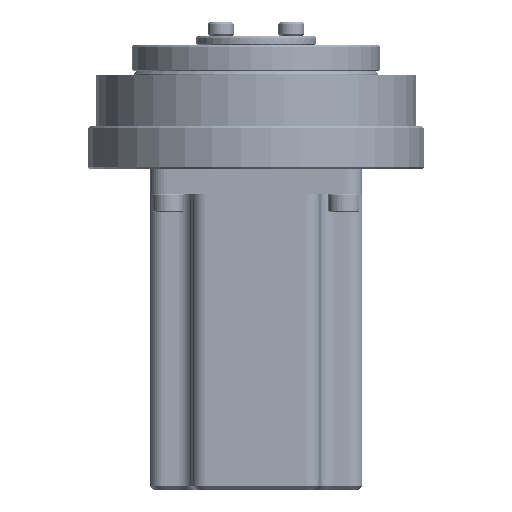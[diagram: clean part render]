
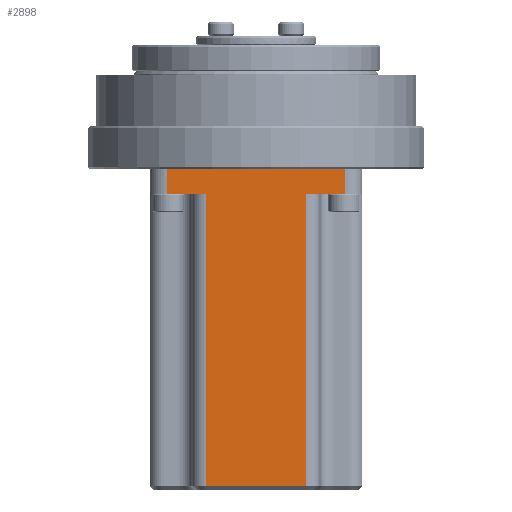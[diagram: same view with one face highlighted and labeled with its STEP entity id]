
A CAD part, left-side view. The second image highlights one B-rep face of the part: STEP entity #2898.
In plain terms, the highlighted planar face has unit normal (-1, 0, 0).
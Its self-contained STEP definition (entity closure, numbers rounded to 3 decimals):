
#1339=PLANE('',#15451);
#2898=ADVANCED_FACE('',(#4122),#1339,.F.);
#4122=FACE_OUTER_BOUND('',#4605,.T.);
#4605=EDGE_LOOP('',(#7621,#7622,#7623,#7624,#7625,#7626,#7627,#7628));
#7621=ORIENTED_EDGE('',*,*,#12496,.T.);
#7622=ORIENTED_EDGE('',*,*,#12497,.T.);
#7623=ORIENTED_EDGE('',*,*,#12498,.T.);
#7624=ORIENTED_EDGE('',*,*,#12435,.F.);
#7625=ORIENTED_EDGE('',*,*,#12499,.T.);
#7626=ORIENTED_EDGE('',*,*,#12500,.T.);
#7627=ORIENTED_EDGE('',*,*,#12501,.T.);
#7628=ORIENTED_EDGE('',*,*,#12502,.F.);
#11037=VERTEX_POINT('',#25009);
#11038=VERTEX_POINT('',#25011);
#11086=VERTEX_POINT('',#28418);
#11087=VERTEX_POINT('',#28419);
#11088=VERTEX_POINT('',#28421);
#11089=VERTEX_POINT('',#28424);
#11090=VERTEX_POINT('',#28426);
#11091=VERTEX_POINT('',#28428);
#12435=EDGE_CURVE('',#11037,#11038,#14195,.T.);
#12496=EDGE_CURVE('',#11086,#11087,#14218,.T.);
#12497=EDGE_CURVE('',#11087,#11088,#14219,.T.);
#12498=EDGE_CURVE('',#11088,#11038,#14220,.T.);
#12499=EDGE_CURVE('',#11037,#11089,#14221,.T.);
#12500=EDGE_CURVE('',#11089,#11090,#14222,.T.);
#12501=EDGE_CURVE('',#11090,#11091,#14223,.T.);
#12502=EDGE_CURVE('',#11086,#11091,#14224,.T.);
#14195=LINE('',#25010,#14779);
#14218=LINE('',#28417,#14802);
#14219=LINE('',#28420,#14803);
#14220=LINE('',#28422,#14804);
#14221=LINE('',#28423,#14805);
#14222=LINE('',#28425,#14806);
#14223=LINE('',#28427,#14807);
#14224=LINE('',#28429,#14808);
#14779=VECTOR('',#17139,1.);
#14802=VECTOR('',#17242,1.);
#14803=VECTOR('',#17243,1.);
#14804=VECTOR('',#17244,1.);
#14805=VECTOR('',#17245,1.);
#14806=VECTOR('',#17246,1.);
#14807=VECTOR('',#17247,1.);
#14808=VECTOR('',#17248,1.);
#15451=AXIS2_PLACEMENT_3D('',#28430,#17249,#17250);
#17139=DIRECTION('',(0.,1.,0.));
#17242=DIRECTION('',(0.,0.,-1.));
#17243=DIRECTION('',(0.,-1.,0.));
#17244=DIRECTION('',(0.,0.,1.));
#17245=DIRECTION('',(0.,0.,1.));
#17246=DIRECTION('',(0.,1.,0.));
#17247=DIRECTION('',(0.,0.,-1.));
#17248=DIRECTION('',(0.,1.,0.));
#17249=DIRECTION('',(1.,0.,0.));
#17250=DIRECTION('',(0.,1.,0.));
#25009=CARTESIAN_POINT('',(-30.,-25.,-7.));
#25010=CARTESIAN_POINT('',(-30.,-30.,-7.));
#25011=CARTESIAN_POINT('',(-30.,-14.,-7.));
#28417=CARTESIAN_POINT('',(-30.,14.,-7.));
#28418=CARTESIAN_POINT('',(-30.,14.,-7.));
#28419=CARTESIAN_POINT('',(-30.,14.,-89.5));
#28420=CARTESIAN_POINT('',(-30.,0.,-89.5));
#28421=CARTESIAN_POINT('',(-30.,-14.,-89.5));
#28422=CARTESIAN_POINT('',(-30.,-14.,-7.));
#28423=CARTESIAN_POINT('',(-30.,-25.,-7.));
#28424=CARTESIAN_POINT('',(-30.,-25.,0.));
#28425=CARTESIAN_POINT('',(-30.,-30.,0.));
#28426=CARTESIAN_POINT('',(-30.,25.,0.));
#28427=CARTESIAN_POINT('',(-30.,25.,-7.));
#28428=CARTESIAN_POINT('',(-30.,25.,-7.));
#28429=CARTESIAN_POINT('',(-30.,-30.,-7.));
#28430=CARTESIAN_POINT('',(-30.,-30.,-7.));
